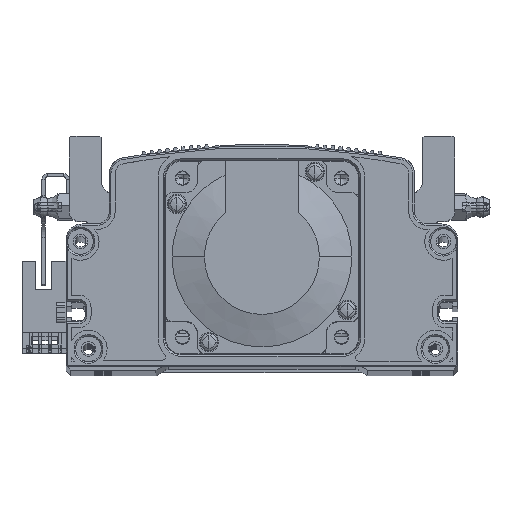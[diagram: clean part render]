
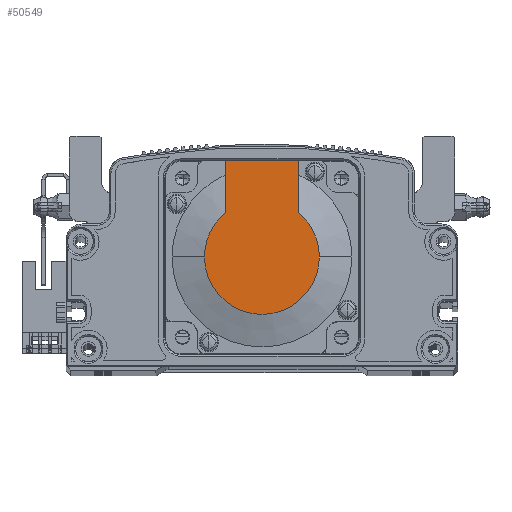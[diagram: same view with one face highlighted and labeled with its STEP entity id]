
A CAD part, top view. The second image highlights one B-rep face of the part: STEP entity #50549.
In plain terms, the highlighted planar face has unit normal (0, 0, 1) as drawn and (-1, 0, 0) by its records, which use the part's own axes.
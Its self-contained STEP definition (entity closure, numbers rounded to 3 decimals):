
#166 = VERTEX_POINT ( 'NONE', #66808 ) ;
#482 = LINE ( 'NONE', #22943, #2697 ) ;
#2697 = VECTOR ( 'NONE', #7999, 1000. ) ;
#4137 = VERTEX_POINT ( 'NONE', #8619 ) ;
#7432 = VERTEX_POINT ( 'NONE', #70171 ) ;
#7999 = DIRECTION ( 'NONE',  ( 0., -1., 0. ) ) ;
#8619 = CARTESIAN_POINT ( 'NONE',  ( -118.5, 13.735, 11.45 ) ) ;
#9296 = CIRCLE ( 'NONE', #76291, 17.881 ) ;
#12338 = CARTESIAN_POINT ( 'NONE',  ( -118.5, 0., 0. ) ) ;
#15358 = FACE_OUTER_BOUND ( 'NONE', #56404, .T. ) ;
#16791 = AXIS2_PLACEMENT_3D ( 'NONE', #60449, #39565, #39250 ) ;
#17338 = LINE ( 'NONE', #59979, #58588 ) ;
#18732 = CARTESIAN_POINT ( 'NONE',  ( -118.5, 30., -11.45 ) ) ;
#19701 = DIRECTION ( 'NONE',  ( -1., 0., 0. ) ) ;
#21531 = CIRCLE ( 'NONE', #89245, 17.881 ) ;
#22943 = CARTESIAN_POINT ( 'NONE',  ( -118.5, -8.941, -11.45 ) ) ;
#25221 = VERTEX_POINT ( 'NONE', #81338 ) ;
#27211 = ORIENTED_EDGE ( 'NONE', *, *, #72787, .T. ) ;
#39250 = DIRECTION ( 'NONE',  ( 0., 0., 1. ) ) ;
#39565 = DIRECTION ( 'NONE',  ( -1., 0., 0. ) ) ;
#40698 = DIRECTION ( 'NONE',  ( 0., 0., -1. ) ) ;
#41292 = AXIS2_PLACEMENT_3D ( 'NONE', #12338, #83320, #40698 ) ;
#41613 = VERTEX_POINT ( 'NONE', #18732 ) ;
#42899 = ORIENTED_EDGE ( 'NONE', *, *, #51860, .F. ) ;
#43966 = VERTEX_POINT ( 'NONE', #59836 ) ;
#47168 = CARTESIAN_POINT ( 'NONE',  ( -118.5, 0., 0. ) ) ;
#47759 = EDGE_CURVE ( 'NONE', #166, #43966, #9296, .T. ) ;
#49515 = ORIENTED_EDGE ( 'NONE', *, *, #75127, .T. ) ;
#50549 = ADVANCED_FACE ( 'NONE', ( #15358 ), #82795, .T. ) ;
#51860 = EDGE_CURVE ( 'NONE', #41613, #7432, #17338, .T. ) ;
#52487 = VECTOR ( 'NONE', #92244, 1000. ) ;
#53111 = ORIENTED_EDGE ( 'NONE', *, *, #64144, .F. ) ;
#55223 = CARTESIAN_POINT ( 'NONE',  ( -118.5, 0., 0. ) ) ;
#55564 = DIRECTION ( 'NONE',  ( 0., 0., -1. ) ) ;
#56404 = EDGE_LOOP ( 'NONE', ( #27211, #90322, #49515, #79091, #53111, #42899 ) ) ;
#58588 = VECTOR ( 'NONE', #88900, 1000. ) ;
#59836 = CARTESIAN_POINT ( 'NONE',  ( -118.5, 0., -17.881 ) ) ;
#59979 = CARTESIAN_POINT ( 'NONE',  ( -118.5, 30., 25. ) ) ;
#60449 = CARTESIAN_POINT ( 'NONE',  ( -118.5, -8.941, 0. ) ) ;
#61368 = EDGE_CURVE ( 'NONE', #25221, #4137, #21531, .T. ) ;
#61777 = DIRECTION ( 'NONE',  ( 0., 0., -1. ) ) ;
#64144 = EDGE_CURVE ( 'NONE', #7432, #4137, #71394, .T. ) ;
#66808 = CARTESIAN_POINT ( 'NONE',  ( -118.5, 13.735, -11.45 ) ) ;
#70171 = CARTESIAN_POINT ( 'NONE',  ( -118.5, 30., 11.45 ) ) ;
#71394 = LINE ( 'NONE', #84761, #52487 ) ;
#72787 = EDGE_CURVE ( 'NONE', #41613, #166, #482, .T. ) ;
#75127 = EDGE_CURVE ( 'NONE', #43966, #25221, #83579, .T. ) ;
#75782 = DIRECTION ( 'NONE',  ( -1., 0., 0. ) ) ;
#76291 = AXIS2_PLACEMENT_3D ( 'NONE', #55223, #19701, #61777 ) ;
#79091 = ORIENTED_EDGE ( 'NONE', *, *, #61368, .T. ) ;
#81338 = CARTESIAN_POINT ( 'NONE',  ( -118.5, 0., 17.881 ) ) ;
#82795 = PLANE ( 'NONE',  #16791 ) ;
#83320 = DIRECTION ( 'NONE',  ( -1., 0., 0. ) ) ;
#83579 = CIRCLE ( 'NONE', #41292, 17.881 ) ;
#84761 = CARTESIAN_POINT ( 'NONE',  ( -118.5, 0., 11.45 ) ) ;
#88900 = DIRECTION ( 'NONE',  ( 0., 0., 1. ) ) ;
#89245 = AXIS2_PLACEMENT_3D ( 'NONE', #47168, #75782, #55564 ) ;
#90322 = ORIENTED_EDGE ( 'NONE', *, *, #47759, .T. ) ;
#92244 = DIRECTION ( 'NONE',  ( 0., -1., 0. ) ) ;
